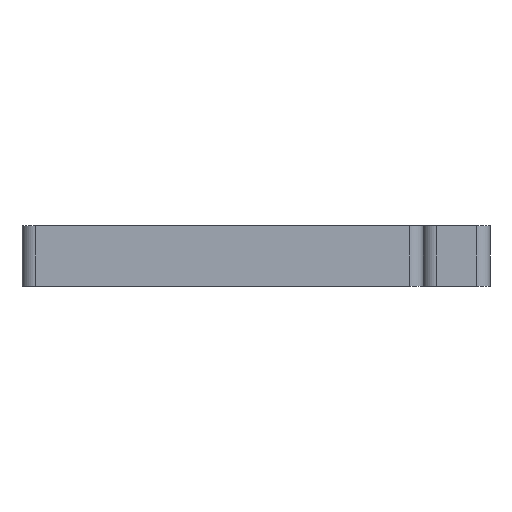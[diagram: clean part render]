
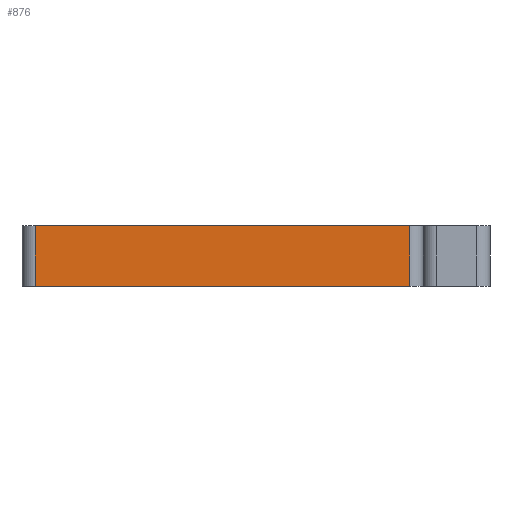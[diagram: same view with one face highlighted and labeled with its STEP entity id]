
A CAD part, front view. The second image highlights one B-rep face of the part: STEP entity #876.
In plain terms, the highlighted planar face has unit normal (0, -1, 0).
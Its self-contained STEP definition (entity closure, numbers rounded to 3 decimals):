
#45 = DIRECTION ( 'NONE',  ( 0., 0., -1. ) ) ;
#88 = LINE ( 'NONE', #854, #445 ) ;
#111 = CARTESIAN_POINT ( 'NONE',  ( 5.4, -15., 4.5 ) ) ;
#141 = VERTEX_POINT ( 'NONE', #111 ) ;
#155 = CARTESIAN_POINT ( 'NONE',  ( 4.4, -15., 4.5 ) ) ;
#173 = ORIENTED_EDGE ( 'NONE', *, *, #498, .T. ) ;
#220 = ORIENTED_EDGE ( 'NONE', *, *, #949, .F. ) ;
#310 = CARTESIAN_POINT ( 'NONE',  ( 4.4, -15., 4.5 ) ) ;
#324 = AXIS2_PLACEMENT_3D ( 'NONE', #310, #1178, #1085 ) ;
#337 = ORIENTED_EDGE ( 'NONE', *, *, #816, .T. ) ;
#348 = LINE ( 'NONE', #155, #1143 ) ;
#376 = EDGE_LOOP ( 'NONE', ( #220, #480, #173, #337 ) ) ;
#392 = VERTEX_POINT ( 'NONE', #1014 ) ;
#445 = VECTOR ( 'NONE', #860, 1000. ) ;
#480 = ORIENTED_EDGE ( 'NONE', *, *, #979, .T. ) ;
#498 = EDGE_CURVE ( 'NONE', #798, #642, #88, .T. ) ;
#514 = CARTESIAN_POINT ( 'NONE',  ( 33.4, -15., 0. ) ) ;
#542 = CARTESIAN_POINT ( 'NONE',  ( 5.4, -15., 4.5 ) ) ;
#566 = VECTOR ( 'NONE', #45, 1000. ) ;
#642 = VERTEX_POINT ( 'NONE', #514 ) ;
#683 = LINE ( 'NONE', #1057, #963 ) ;
#776 = PLANE ( 'NONE',  #324 ) ;
#798 = VERTEX_POINT ( 'NONE', #1063 ) ;
#816 = EDGE_CURVE ( 'NONE', #642, #392, #683, .T. ) ;
#854 = CARTESIAN_POINT ( 'NONE',  ( 4.4, -15., 0. ) ) ;
#860 = DIRECTION ( 'NONE',  ( 1., 0., 0. ) ) ;
#876 = ADVANCED_FACE ( 'NONE', ( #1171 ), #776, .F. ) ;
#949 = EDGE_CURVE ( 'NONE', #141, #392, #348, .T. ) ;
#963 = VECTOR ( 'NONE', #1072, 1000. ) ;
#979 = EDGE_CURVE ( 'NONE', #141, #798, #1098, .T. ) ;
#1014 = CARTESIAN_POINT ( 'NONE',  ( 33.4, -15., 4.5 ) ) ;
#1057 = CARTESIAN_POINT ( 'NONE',  ( 33.4, -15., 4.5 ) ) ;
#1063 = CARTESIAN_POINT ( 'NONE',  ( 5.4, -15., 0. ) ) ;
#1072 = DIRECTION ( 'NONE',  ( 0., 0., 1. ) ) ;
#1085 = DIRECTION ( 'NONE',  ( 0., 0., 1. ) ) ;
#1098 = LINE ( 'NONE', #542, #566 ) ;
#1143 = VECTOR ( 'NONE', #1217, 1000. ) ;
#1171 = FACE_OUTER_BOUND ( 'NONE', #376, .T. ) ;
#1178 = DIRECTION ( 'NONE',  ( 0., 1., 0. ) ) ;
#1217 = DIRECTION ( 'NONE',  ( 1., 0., 0. ) ) ;
